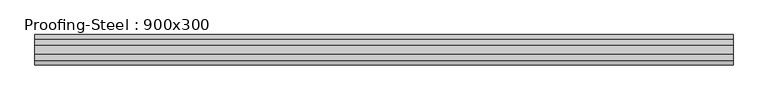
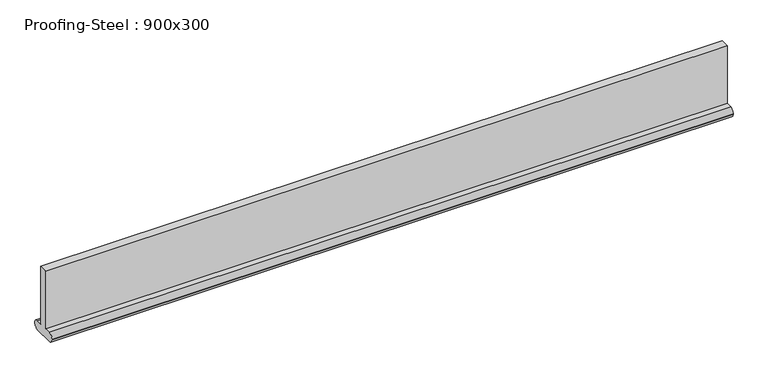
"""IFC4 building model written with IfcOpenShell, lengths in millimetres: beam geometry, Proofing-Steel : 900x300."""

from ifc_helpers import new_model, si_unit, point, frame, frame_2d, origin, place, context, project, spatial, polyline, circle_curve, trimmed, segment, composite_curve, outline, extrude, source, transform, mapped, element, save


def proofing_steel_900x300_569d03ce(model_context):
    return source(origin(), model_context, "Body", "SweptSolid", [
        extrude(outline(composite_curve([segment(polyline([(-58.0, -372.0), (-58.0, 450.0), (58.0, 450.0), (58.0, -372.0), (140.0, -372.0)]), True, "CONTINUOUS"), segment(trimmed(circle_curve(frame_2d((140.0, -432.0)), 60.0), [point((140.0, -372.0))], [point((200.0, -432.0))], False, "CARTESIAN"), True, "CONTINUOUS"), segment(polyline([(200.0, -432.0), (200.0, -440.0)]), True, "CONTINUOUS"), segment(trimmed(circle_curve(frame_2d((140.0, -440.0)), 60.0), [point((200.0, -440.0))], [point((140.0, -500.0))], False, "CARTESIAN"), True, "CONTINUOUS"), segment(polyline([(140.0, -500.0), (-140.0, -500.0)]), True, "CONTINUOUS"), segment(trimmed(circle_curve(frame_2d((-140.0, -440.0)), 60.0), [point((-140.0, -500.0))], [point((-200.0, -440.0))], False, "CARTESIAN"), True, "CONTINUOUS"), segment(polyline([(-200.0, -440.0), (-200.0, -432.0)]), True, "CONTINUOUS"), segment(trimmed(circle_curve(frame_2d((-140.0, -432.0)), 60.0), [point((-200.0, -432.0))], [point((-140.0, -372.0))], False, "CARTESIAN"), True, "CONTINUOUS"), segment(polyline([(-140.0, -372.0), (-58.0, -372.0)]), True, "CONTINUOUS")], self_intersect=False)), frame((-4599.9999371, 0.0, 0.0), z_axis=(1.0, 0.0, 0.0), x_axis=(0.0, 1.0, 0.0)), (0.0, 0.0, 1.0), 9199.9998742),
    ])


if __name__ == "__main__":
    model = new_model("IFC4")
    model_context = context("Model", 3, world=origin())
    ifc_project = project(units=[si_unit("LENGTHUNIT", "METRE", prefix="MILLI")], contexts=[model_context])
    site = spatial("IfcSite", under=ifc_project)
    building = spatial("IfcBuilding", under=site)
    placement = place(None, origin())
    proofing_steel_900x300_shape = proofing_steel_900x300_569d03ce(model_context)
    element("IfcBeam", 1, ObjectType="Proofing-Steel : 900x300", at=placement, inside=building, context=model_context, shape_type="MappedRepresentation", body=[
        mapped(proofing_steel_900x300_shape, transform((0.0, 0.0, 0.0), x_axis=(1.0, 0.0, 0.0), y_axis=(0.0, 1.0, 0.0), z_axis=(0.0, 0.0, 1.0))),
    ])
    save(model, "model.ifc")
